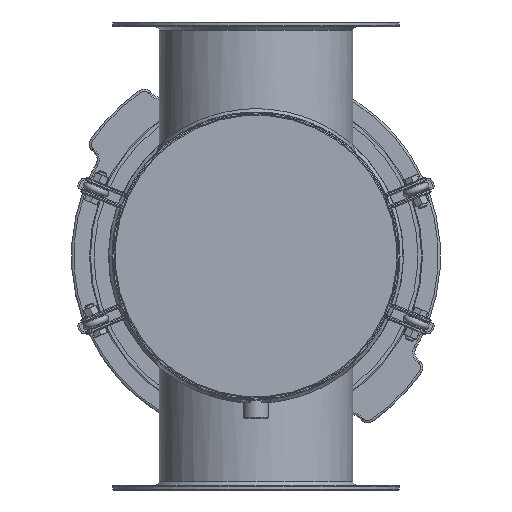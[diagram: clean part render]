
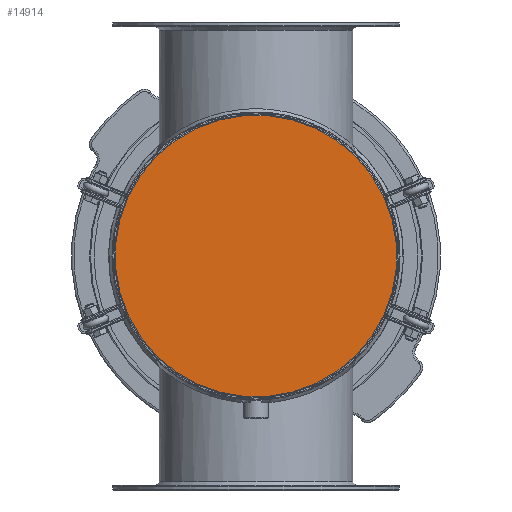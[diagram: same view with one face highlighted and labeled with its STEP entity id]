
A CAD part, front view. The second image highlights one B-rep face of the part: STEP entity #14914.
In plain terms, the highlighted planar face has unit normal (0, -1, 0).
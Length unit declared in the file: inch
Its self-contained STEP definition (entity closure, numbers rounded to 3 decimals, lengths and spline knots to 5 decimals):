
#1452=CIRCLE('',#16006,7.825);
#3084=FACE_OUTER_BOUND('',#4104,.T.);
#4104=EDGE_LOOP('',(#10755));
#7050=VERTEX_POINT('',#27385);
#8414=EDGE_CURVE('',#7050,#7050,#1452,.T.);
#10755=ORIENTED_EDGE('',*,*,#8414,.F.);
#14565=PLANE('',#16009);
#14914=ADVANCED_FACE('',(#3084),#14565,.F.);
#16006=AXIS2_PLACEMENT_3D('',#27386,#18438,#18439);
#16009=AXIS2_PLACEMENT_3D('',#27390,#18444,#18445);
#18438=DIRECTION('center_axis',(0.,1.,0.));
#18439=DIRECTION('ref_axis',(1.,0.,0.));
#18444=DIRECTION('center_axis',(0.,1.,0.));
#18445=DIRECTION('ref_axis',(0.,0.,1.));
#27385=CARTESIAN_POINT('',(-7.825,0.,0.));
#27386=CARTESIAN_POINT('Origin',(0.,0.,0.));
#27390=CARTESIAN_POINT('Origin',(0.,0.,0.));
